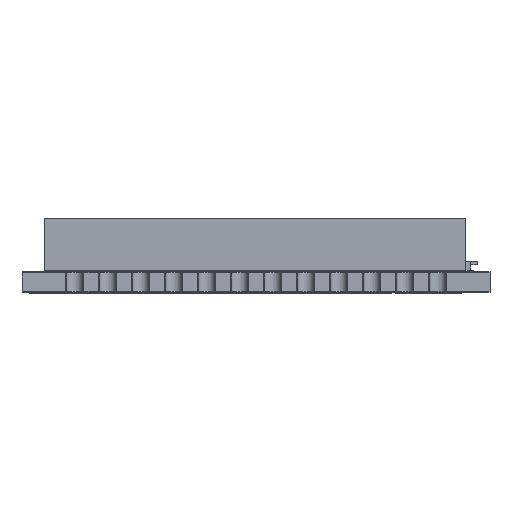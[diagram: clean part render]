
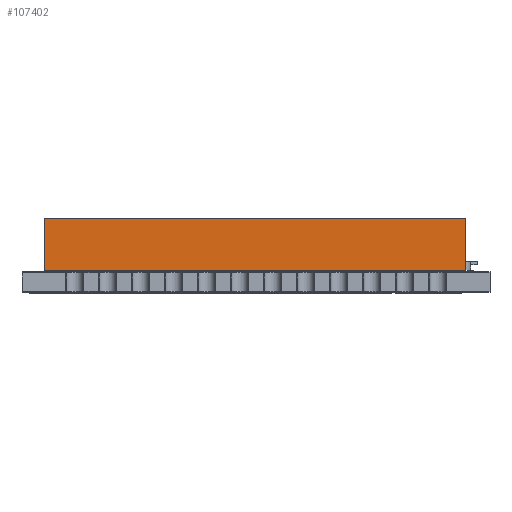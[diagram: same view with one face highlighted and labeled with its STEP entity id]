
A CAD part, front view. The second image highlights one B-rep face of the part: STEP entity #107402.
In plain terms, the highlighted planar face has unit normal (0, -1, 0).
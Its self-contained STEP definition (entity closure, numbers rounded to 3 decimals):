
#6734=FACE_OUTER_BOUND('',#11708,.T.);
#11708=EDGE_LOOP('',(#82229,#82230,#82231,#82232));
#16435=LINE('',#144558,#30849);
#18371=LINE('',#158459,#32785);
#18378=LINE('',#158470,#32792);
#18379=LINE('',#158472,#32793);
#30849=VECTOR('',#118925,1.);
#32785=VECTOR('',#121997,1.);
#32792=VECTOR('',#122008,1.);
#32793=VECTOR('',#122011,1.);
#44699=VERTEX_POINT('',#144555);
#44700=VERTEX_POINT('',#144557);
#46800=VERTEX_POINT('',#158456);
#46801=VERTEX_POINT('',#158458);
#57851=EDGE_CURVE('',#44699,#44700,#16435,.T.);
#60985=EDGE_CURVE('',#46801,#46800,#18371,.T.);
#60992=EDGE_CURVE('',#46801,#44699,#18378,.T.);
#60993=EDGE_CURVE('',#46800,#44700,#18379,.T.);
#82229=ORIENTED_EDGE('',*,*,#60985,.T.);
#82230=ORIENTED_EDGE('',*,*,#60993,.T.);
#82231=ORIENTED_EDGE('',*,*,#57851,.F.);
#82232=ORIENTED_EDGE('',*,*,#60992,.F.);
#102898=PLANE('',#112116);
#107402=ADVANCED_FACE('',(#6734),#102898,.T.);
#112116=AXIS2_PLACEMENT_3D('',#158471,#122009,#122010);
#118925=DIRECTION('',(1.,0.,0.));
#121997=DIRECTION('',(1.,0.,0.));
#122008=DIRECTION('',(0.,0.,1.));
#122009=DIRECTION('center_axis',(0.,-1.,0.));
#122010=DIRECTION('ref_axis',(1.,0.,0.));
#122011=DIRECTION('',(0.,0.,1.));
#144555=CARTESIAN_POINT('',(0.,0.,2.5));
#144557=CARTESIAN_POINT('',(16.2,0.,2.5));
#144558=CARTESIAN_POINT('',(0.,0.,2.5));
#158456=CARTESIAN_POINT('',(16.2,0.,0.5));
#158458=CARTESIAN_POINT('',(0.,0.,0.5));
#158459=CARTESIAN_POINT('',(4.05,0.,0.5));
#158470=CARTESIAN_POINT('',(0.,0.,0.));
#158471=CARTESIAN_POINT('Origin',(0.,0.,0.));
#158472=CARTESIAN_POINT('',(16.2,0.,0.));
